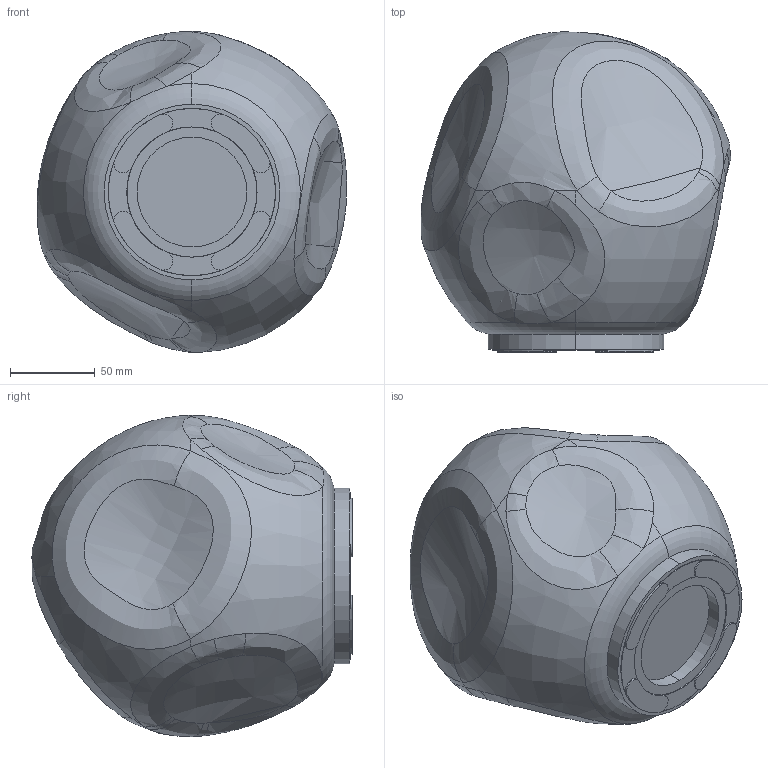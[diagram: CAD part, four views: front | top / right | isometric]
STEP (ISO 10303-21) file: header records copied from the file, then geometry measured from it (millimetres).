
FILE_DESCRIPTION (( 'STEP AP203' ), '1' );
FILE_NAME ('325_MIDI_WC_ME_3D.STEP', '2023-09-01T14:12:45', ( '' ), ( '' ), 'SwSTEP 2.0', 'SolidWorks 2023', '' );
FILE_SCHEMA (( 'CONFIG_CONTROL_DESIGN' ));
Products named in the file (1): 325_MIDI_WC_ME_3D
Bounding box: 183.12 x 189.37 x 189.95 mm (x, y, z)
Volume: 205357.4 mm3; surface area: 231320.4 mm2
Topology: 2 solids, 2 shells, 147 faces, 362 edges, 219 vertices
Faces by surface type: bspline 91, cylinder 22, plane 14, torus 12, sphere 8
Entity records: 63730 total; most frequent: CARTESIAN_POINT 60859, ORIENTED_EDGE 716, DIRECTION 368, EDGE_CURVE 358, VERTEX_POINT 219, B_SPLINE_CURVE_WITH_KNOTS 212, AXIS2_PLACEMENT_3D 169, EDGE_LOOP 151
